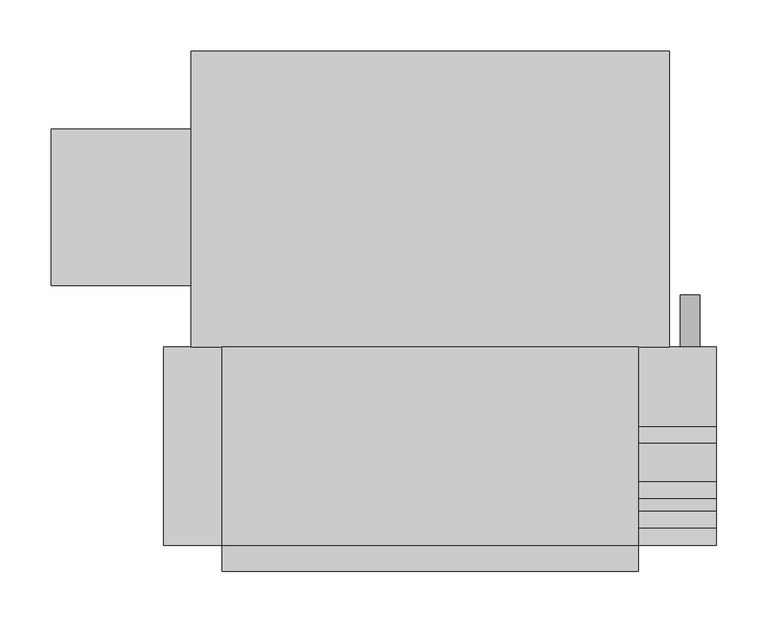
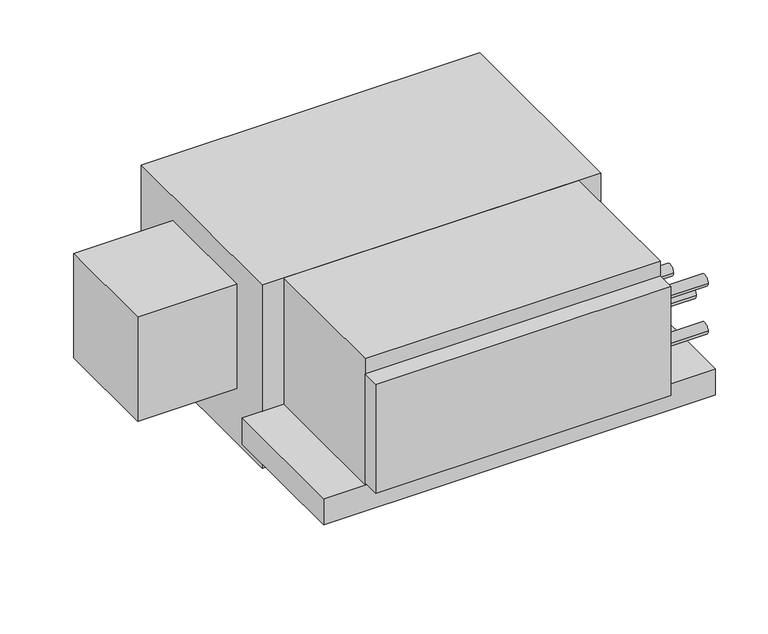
"""IFC4 building model written with IfcOpenShell, lengths in millimetres: proxy geometry, Concealed_Horizontal_Fan_Coil_Unit_With_Plenum_-_42CEA_-_CARRIER_-_4-Pipe_RH_2022 : Size 02 - 277v/60Hz/1Ph - 4/1 Coil."""

from ifc_helpers import new_model, si_unit, point, frame, frame_2d, origin, place, context, project, spatial, polyline, circle_curve, trimmed, segment, composite_curve, outline, extrude, source, transform, mapped, element, save


def mechanical_equipment_a687720b(model_context):
    return source(origin(), model_context, "Body", "SweptSolid", [
        extrude(outline(composite_curve([segment(trimmed(circle_curve(frame_2d((-209.55, 406.4)), 9.525), [point((-209.55, 396.875))], [point((-209.55, 415.925))], False, "CARTESIAN"), True, "CONTINUOUS"), segment(trimmed(circle_curve(frame_2d((-209.55, 406.4)), 9.525), [point((-209.55, 415.925))], [point((-209.55, 396.875))], False, "CARTESIAN"), True, "CONTINUOUS")], self_intersect=False)), frame((0.0, -141.2875, 0.0), z_axis=(0.0, 1.0, 0.0), x_axis=(0.0, 0.0, 1.0)), (0.0, 0.0, 1.0), 50.8),
        extrude(outline(composite_curve([segment(trimmed(circle_curve(frame_2d((-309.5625, -69.85)), 7.9375), [point((-317.5, -69.85))], [point((-301.625, -69.85))], False, "CARTESIAN"), True, "CONTINUOUS"), segment(trimmed(circle_curve(frame_2d((-309.5625, -69.85)), 7.9375), [point((-301.625, -69.85))], [point((-317.5, -69.85))], False, "CARTESIAN"), True, "CONTINUOUS")], self_intersect=False)), frame((355.6, 0.0, 0.0), z_axis=(1.0, 0.0, 0.0), x_axis=(0.0, 1.0, 0.0)), (0.0, 0.0, 1.0), 76.2),
        extrude(outline(composite_curve([segment(trimmed(circle_curve(frame_2d((-309.5625, -139.7)), 7.9375), [point((-317.5, -139.7))], [point((-301.625, -139.7))], False, "CARTESIAN"), True, "CONTINUOUS"), segment(trimmed(circle_curve(frame_2d((-309.5625, -139.7)), 7.9375), [point((-301.625, -139.7))], [point((-317.5, -139.7))], False, "CARTESIAN"), True, "CONTINUOUS")], self_intersect=False)), frame((355.6, 0.0, 0.0), z_axis=(1.0, 0.0, 0.0), x_axis=(0.0, 1.0, 0.0)), (0.0, 0.0, 1.0), 76.2),
        extrude(outline(composite_curve([segment(trimmed(circle_curve(frame_2d((-227.0125, -104.775)), 7.9375), [point((-234.95, -104.775))], [point((-219.075, -104.775))], False, "CARTESIAN"), True, "CONTINUOUS"), segment(trimmed(circle_curve(frame_2d((-227.0125, -104.775)), 7.9375), [point((-219.075, -104.775))], [point((-234.95, -104.775))], False, "CARTESIAN"), True, "CONTINUOUS")], self_intersect=False)), frame((355.6, 0.0, 0.0), z_axis=(1.0, 0.0, 0.0), x_axis=(0.0, 1.0, 0.0)), (0.0, 0.0, 1.0), 76.2),
        extrude(outline(composite_curve([segment(trimmed(circle_curve(frame_2d((-280.9875, -104.775)), 7.9375), [point((-288.925, -104.775))], [point((-273.05, -104.775))], False, "CARTESIAN"), True, "CONTINUOUS"), segment(trimmed(circle_curve(frame_2d((-280.9875, -104.775)), 7.9375), [point((-273.05, -104.775))], [point((-288.925, -104.775))], False, "CARTESIAN"), True, "CONTINUOUS")], self_intersect=False)), frame((355.6, 0.0, 0.0), z_axis=(1.0, 0.0, 0.0), x_axis=(0.0, 1.0, 0.0)), (0.0, 0.0, 1.0), 76.2),
        extrude(outline(polyline([(355.6, -334.9625), (355.6, -360.3625), (-50.8, -360.3625), (-50.8, -334.9625), (355.6, -334.9625)])), frame((0.0, 0.0, -180.975), z_axis=(0.0, 0.0, 1.0), x_axis=(1.0, 0.0, 0.0)), (0.0, 0.0, 1.0), 158.75),
        extrude(outline(polyline([(355.6, -334.9625), (-50.8, -334.9625), (-50.8, -141.2875), (355.6, -141.2875), (355.6, -334.9625)])), frame((0.0, 0.0, -184.15), z_axis=(0.0, 0.0, 1.0), x_axis=(1.0, 0.0, 0.0)), (0.0, 0.0, 1.0), 184.15),
        extrude(outline(polyline([(431.8, -141.2875), (431.8, -334.9625), (-107.95, -334.9625), (-107.95, -141.2875), (431.8, -141.2875)])), frame((0.0, 0.0, -222.25), z_axis=(0.0, 0.0, 1.0), x_axis=(1.0, 0.0, 0.0)), (0.0, 0.0, 1.0), 38.1),
        extrude(outline(polyline([(-217.4875, -80.9625), (-217.4875, 71.4375), (-80.9625, 71.4375), (-80.9625, -80.9625), (-217.4875, -80.9625)])), frame((0.0, 0.0, -187.325), z_axis=(0.0, 0.0, 1.0), x_axis=(1.0, 0.0, 0.0)), (0.0, 0.0, 1.0), 152.4),
        extrude(outline(polyline([(-80.9625, 147.6375), (385.7625, 147.6375), (385.7625, -141.2875), (-80.9625, -141.2875), (-80.9625, 147.6375)])), frame((0.0, 0.0, -266.7), z_axis=(0.0, 0.0, 1.0), x_axis=(1.0, 0.0, 0.0)), (0.0, 0.0, 1.0), 266.7),
    ])


if __name__ == "__main__":
    model = new_model("IFC4")
    model_context = context("Model", 3, world=origin())
    ifc_project = project(units=[si_unit("LENGTHUNIT", "METRE", prefix="MILLI")], contexts=[model_context])
    site = spatial("IfcSite", under=ifc_project)
    building = spatial("IfcBuilding", under=site)
    placement = place(None, origin())
    mechanical_equipment_shape = mechanical_equipment_a687720b(model_context)
    element("IfcBuildingElementProxy", 1, Name="Concealed_Horizontal_Fan_Coil_Unit_With_Plenum_-_42CEA_-_CARRIER_-_4-Pipe_RH_2022 : Size 02 - 277v/60Hz/1Ph - 4/1 Coil", ObjectType="Concealed_Horizontal_Fan_Coil_Unit_With_Plenum_-_42CEA_-_CARRIER_-_4-Pipe_RH_2022 : Size 02 - 277v/60Hz/1Ph - 4/1 Coil", at=placement, inside=building, context=model_context, shape_type="MappedRepresentation", body=[
        mapped(mechanical_equipment_shape, transform((0.0, 0.0, 0.0), x_axis=(1.0, 0.0, 0.0), y_axis=(0.0, 1.0, 0.0), z_axis=(0.0, 0.0, 1.0))),
    ])
    save(model, "model.ifc")
